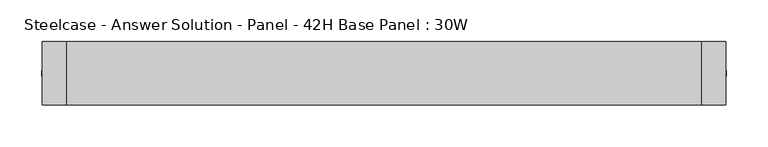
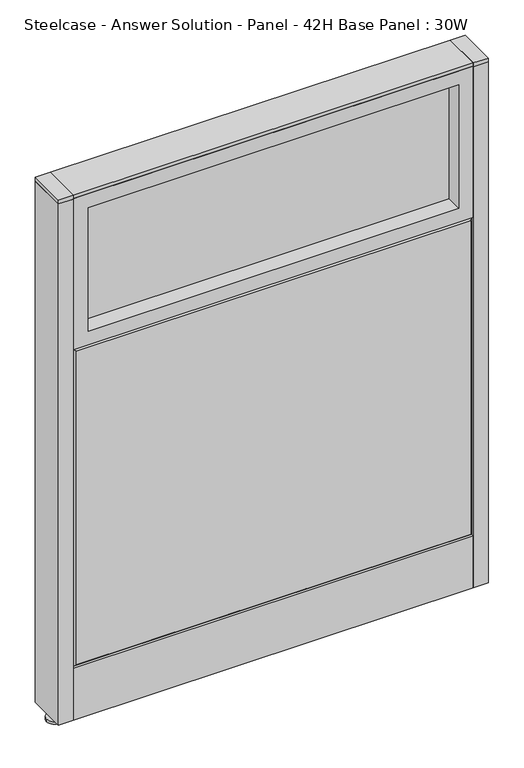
"""IFC4 building model written with IfcOpenShell, lengths in millimetres: furniture geometry, Steelcase - Answer Solution - Panel - 42H Base Panel : 30W."""

from ifc_helpers import new_model, si_unit, point, frame, frame_2d, origin, place, context, project, spatial, polyline, circle_curve, trimmed, segment, composite_curve, outline, extrude, faceted_brep, source, transform, mapped, element, save


def steelcase_answer_solution_panel_42h_base_panel_30w_4e0a07c2(model_context):
    return source(origin(), model_context, "Body", "SolidModel", [
        extrude(outline(composite_curve([segment(trimmed(circle_curve(frame_2d((395.224, 0.0039657)), 5.08), [point((400.304, 0.0039657))], [point((390.144, 0.0039657))], False, "CARTESIAN"), True, "CONTINUOUS"), segment(trimmed(circle_curve(frame_2d((395.224, 0.0039657)), 5.08), [point((390.144, 0.0039657))], [point((400.304, 0.0039657))], False, "CARTESIAN"), True, "CONTINUOUS")], self_intersect=False)), frame((0.0, 0.0, 5.0799671), z_axis=(0.0, 0.0, 1.0), x_axis=(1.0, 0.0, 0.0)), (0.0, 0.0, 1.0), 10.414),
        extrude(outline(composite_curve([segment(trimmed(circle_curve(frame_2d((395.224, 0.0039657)), 15.24), [point((410.464, 0.0039657))], [point((379.984, 0.0039657))], False, "CARTESIAN"), True, "CONTINUOUS"), segment(trimmed(circle_curve(frame_2d((395.224, 0.0039657)), 15.24), [point((379.984, 0.0039657))], [point((410.464, 0.0039657))], False, "CARTESIAN"), True, "CONTINUOUS")], self_intersect=False)), frame((0.0, 0.0, -3.29e-05), z_axis=(0.0, 0.0, 1.0), x_axis=(1.0, 0.0, 0.0)), (0.0, 0.0, 1.0), 5.08),
        extrude(outline(polyline([(409.575, 38.1039851), (409.575, -38.0960149), (381.0, -38.0960149), (381.0, 38.1039851), (409.575, 38.1039851)])), frame((0.0, 0.0, 1065.8348), z_axis=(0.0, 0.0, 1.0), x_axis=(1.0, 0.0, 0.0)), (0.0, 0.0, 1.0), 7.3151671),
        extrude(outline(polyline([(409.575, 38.1039851), (409.575, -38.0960149), (381.0, -38.0960149), (381.0, 38.1039851), (409.575, 38.1039851)])), frame((0.0, 0.0, 15.4939671), z_axis=(0.0, 0.0, 1.0), x_axis=(1.0, 0.0, 0.0)), (0.0, 0.0, 1.0), 1050.3408329),
        extrude(outline(composite_curve([segment(trimmed(circle_curve(frame_2d((-395.224, 0.0039657)), 5.08), [point((-400.304, 0.0039657))], [point((-390.144, 0.0039657))], False, "CARTESIAN"), True, "CONTINUOUS"), segment(trimmed(circle_curve(frame_2d((-395.224, 0.0039657)), 5.08), [point((-390.144, 0.0039657))], [point((-400.304, 0.0039657))], False, "CARTESIAN"), True, "CONTINUOUS")], self_intersect=False)), frame((0.0, 0.0, 5.0799671), z_axis=(0.0, 0.0, 1.0), x_axis=(1.0, 0.0, 0.0)), (0.0, 0.0, 1.0), 10.414),
        extrude(outline(composite_curve([segment(trimmed(circle_curve(frame_2d((-395.224, 0.0039657)), 15.24), [point((-410.464, 0.0039657))], [point((-379.984, 0.0039657))], False, "CARTESIAN"), True, "CONTINUOUS"), segment(trimmed(circle_curve(frame_2d((-395.224, 0.0039657)), 15.24), [point((-379.984, 0.0039657))], [point((-410.464, 0.0039657))], False, "CARTESIAN"), True, "CONTINUOUS")], self_intersect=False)), frame((0.0, 0.0, -3.29e-05), z_axis=(0.0, 0.0, 1.0), x_axis=(1.0, 0.0, 0.0)), (0.0, 0.0, 1.0), 5.08),
        extrude(outline(polyline([(-409.575, 38.1039851), (-381.0, 38.1039851), (-381.0, -38.0960149), (-409.575, -38.0960149), (-409.575, 38.1039851)])), frame((0.0, 0.0, 1065.8348), z_axis=(0.0, 0.0, 1.0), x_axis=(1.0, 0.0, 0.0)), (0.0, 0.0, 1.0), 7.3151671),
        extrude(outline(polyline([(-409.575, 38.1039851), (-381.0, 38.1039851), (-381.0, -38.0960149), (-409.575, -38.0960149), (-409.575, 38.1039851)])), frame((0.0, 0.0, 15.4939671), z_axis=(0.0, 0.0, 1.0), x_axis=(1.0, 0.0, 0.0)), (0.0, 0.0, 1.0), 1050.3408329),
        extrude(outline(polyline([(-353.06, 6.346049), (353.06, 6.346049), (353.06, -6.353951), (-353.06, -6.353951), (-353.06, 6.346049)])), frame((0.0, 0.0, 789.94), z_axis=(0.0, 0.0, 1.0), x_axis=(1.0, 0.0, 0.0)), (0.0, 0.0, 1.0), 248.92),
        extrude(outline(polyline([(1066.8, -381.0), (762.0, -381.0), (762.0, 381.0), (1066.8, 381.0), (1066.8, -381.0)]), holes=[polyline([(1038.86, -353.06), (1038.86, 353.06), (789.94, 353.06), (789.94, -353.06), (1038.86, -353.06)])]), frame((0.0, -38.103951, 0.0), z_axis=(0.0, 1.0, 0.0), x_axis=(0.0, 0.0, 1.0)), (0.0, 0.0, 1.0), 76.2),
        faceted_brep([(-376.174, 38.1635011, 757.174), (376.174, 38.1635011, 757.174), (376.174, 38.1635011, 125.476), (-376.174, 38.1635011, 125.476), (-381.0, 33.3375011, 762.0), (-381.0, 33.3375011, 120.65), (381.0, 33.3375011, 120.65), (381.0, 33.3375011, 762.0)], [[[0, 1, 2, 3]], [[4, 5, 6, 7]], [[4, 7, 1, 0]], [[7, 6, 2, 1]], [[6, 5, 3, 2]], [[5, 4, 0, 3]]]),
        extrude(outline(polyline([(353.06, -6.346049), (-353.06, -6.346049), (-353.06, 6.353951), (353.06, 6.353951), (353.06, -6.346049)])), frame((0.0, 0.0, 789.94), z_axis=(0.0, 0.0, 1.0), x_axis=(1.0, 0.0, 0.0)), (0.0, 0.0, 1.0), 248.92),
        extrude(outline(polyline([(1066.8, 381.0), (1066.8, -381.0), (762.0, -381.0), (762.0, 381.0), (1066.8, 381.0)]), holes=[polyline([(1038.86, 353.06), (789.94, 353.06), (789.94, -353.06), (1038.86, -353.06), (1038.86, 353.06)])]), frame((0.0, -38.096049, 0.0), z_axis=(0.0, 1.0, 0.0), x_axis=(0.0, 0.0, 1.0)), (0.0, 0.0, 1.0), 76.2),
        faceted_brep([(376.174, -38.1635011, 757.174), (-376.174, -38.1635011, 757.174), (-376.174, -38.1635011, 125.476), (376.174, -38.1635011, 125.476), (381.0, -33.3375011, 762.0), (381.0, -33.3375011, 120.65), (-381.0, -33.3375011, 120.65), (-381.0, -33.3375011, 762.0)], [[[0, 1, 2, 3]], [[4, 5, 6, 7]], [[4, 7, 1, 0]], [[7, 6, 2, 1]], [[6, 5, 3, 2]], [[5, 4, 0, 3]]]),
        extrude(outline(polyline([(381.0, 38.1000194), (381.0, -38.1000194), (-381.0, -38.1000194), (-381.0, 38.1000194), (381.0, 38.1000194)])), frame((0.0, 0.0, 1066.8), z_axis=(0.0, 0.0, 1.0), x_axis=(1.0, 0.0, 0.0)), (0.0, 0.0, 1.0), 6.35),
        extrude(outline(polyline([(25.4000011, 119.8575157), (25.4000011, 120.65), (38.1000194, 120.65), (38.1000194, 15.494), (37.3075215, 15.494), (37.3075215, 119.8575157), (25.4000011, 119.8575157)])), frame((-381.0, 0.0, 0.0), z_axis=(1.0, 0.0, 0.0), x_axis=(0.0, 1.0, 0.0)), (0.0, 0.0, 1.0), 762.0),
        extrude(outline(polyline([(-25.4000011, 119.8575157), (-37.3075215, 119.8575157), (-37.3075215, 15.494), (-38.1000194, 15.494), (-38.1000194, 120.65), (-25.4000011, 120.65), (-25.4000011, 119.8575157)])), frame((-381.0, 0.0, 0.0), z_axis=(1.0, 0.0, 0.0), x_axis=(0.0, 1.0, 0.0)), (0.0, 0.0, 1.0), 762.0),
    ])


if __name__ == "__main__":
    model = new_model("IFC4")
    model_context = context("Model", 3, world=origin())
    ifc_project = project(units=[si_unit("LENGTHUNIT", "METRE", prefix="MILLI")], contexts=[model_context])
    site = spatial("IfcSite", under=ifc_project)
    building = spatial("IfcBuilding", under=site)
    placement = place(None, origin())
    steelcase_answer_solution_panel_42h_base_panel_30w_shape = steelcase_answer_solution_panel_42h_base_panel_30w_4e0a07c2(model_context)
    element("IfcFurniture", 1, ObjectType="Steelcase - Answer Solution - Panel - 42H Base Panel : 30W", at=placement, inside=building, context=model_context, shape_type="MappedRepresentation", body=[
        mapped(steelcase_answer_solution_panel_42h_base_panel_30w_shape, transform((0.0, 0.0, 0.0), x_axis=(1.0, 0.0, 0.0), y_axis=(0.0, 1.0, 0.0), z_axis=(0.0, 0.0, 1.0))),
    ])
    save(model, "model.ifc")
